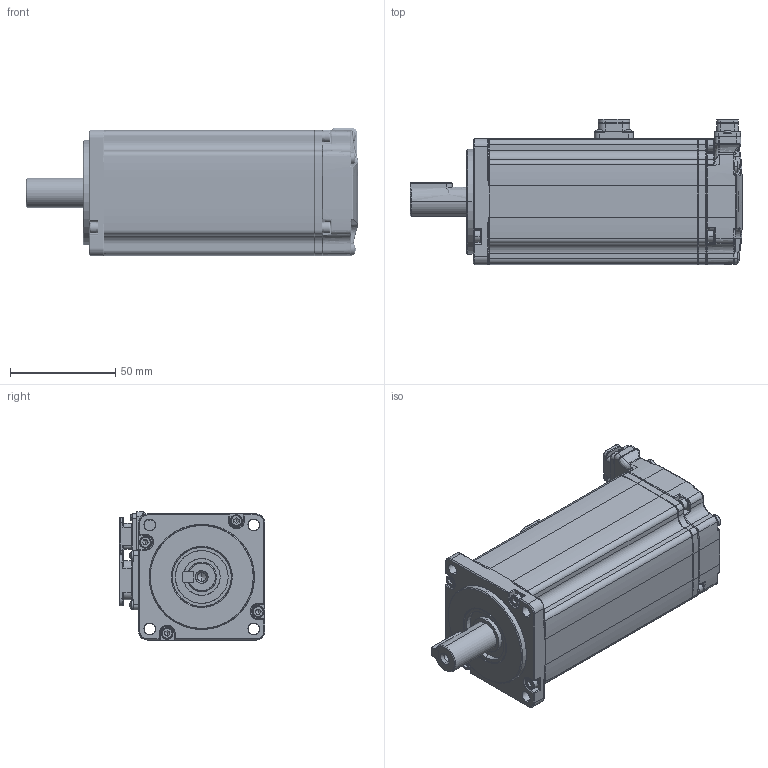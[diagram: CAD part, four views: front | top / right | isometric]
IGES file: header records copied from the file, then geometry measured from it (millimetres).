
Start section: SolidWorks IGES file using analytic representation for surfaces
Global section: file name: Z:\Products\Servo\08.2024\UNITRONICS\B5\UMM-0004BAB-B5.IGS; native system: SolidWorks 2022; preprocessor: SolidWorks 2022; author: OfirZ; date: 240820.130123; units: millimetre
Bounding box: 158 x 69.3 x 60.92 mm (x, y, z)
Surface area: 94305.8 mm2 (no closed solid volume)
Topology: 0 solids, 0 shells, 2956 faces, 26224 edges, 26147 vertices
Faces by surface type: bspline 1865, revolution 1091
